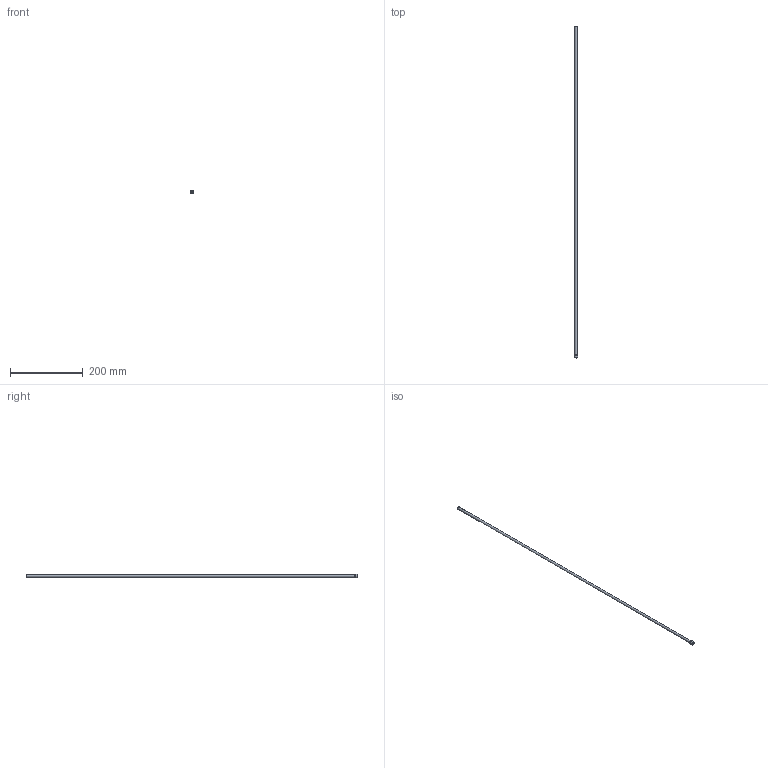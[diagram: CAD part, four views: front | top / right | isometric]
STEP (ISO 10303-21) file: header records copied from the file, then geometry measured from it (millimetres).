
FILE_DESCRIPTION(/* description */ (''),/* implementation_level */ '2;1');
FILE_NAME(/* name */ 'C:/Users/drich/Desktop/JHF250T-36 v1.step',/* time_stamp */ '2020-01-02T20:07:05-06:00',/* author */ (''),/* organization */ (''),/* preprocessor_version */ 'ST-DEVELOPER v18',/* originating_system */ 'Autodesk Translation Framework v8.12.0.6',/* authorisation */ '');
FILE_SCHEMA (('AUTOMOTIVE_DESIGN { 1 0 10303 214 3 1 1 }'));
Length unit declared in the file: inch
Products named in the file (1): JHF250T-36
Bounding box: 9.58 x 914.4 x 9.58 mm (x, y, z)
Volume: 4796.5 mm3; surface area: 35191.5 mm2
Topology: 1 solids, 1 shells, 10 faces, 24 edges, 18 vertices
Faces by surface type: cylinder 4, plane 4, cone 1, torus 1
Full cylindrical faces by diameter (mm): 5.842 x1, 6.35 x1, 9.434 x1, 9.576 x1
Entity records: 354 total; most frequent: DIRECTION 65, CARTESIAN_POINT 53, ORIENTED_EDGE 48, AXIS2_PLACEMENT_3D 30, EDGE_CURVE 24, CIRCLE 19, VERTEX_POINT 18, EDGE_LOOP 14
